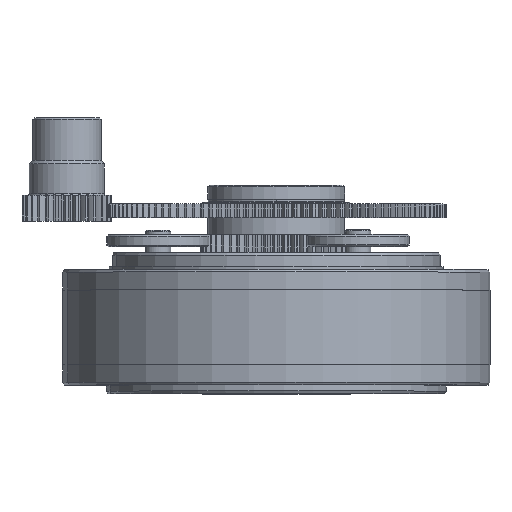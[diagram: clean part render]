
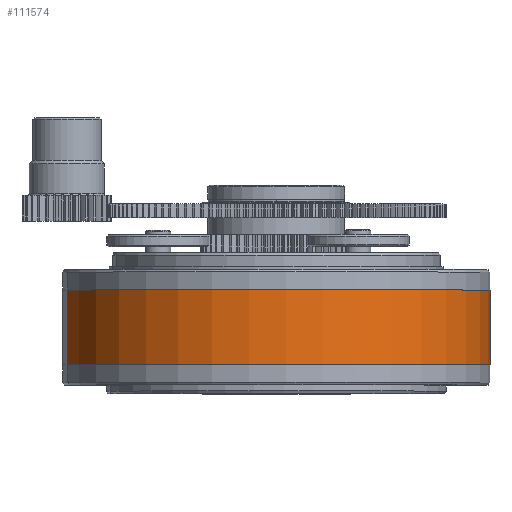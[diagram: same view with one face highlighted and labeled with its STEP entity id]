
A CAD part, top view. The second image highlights one B-rep face of the part: STEP entity #111574.
In plain terms, the highlighted cylindrical face has radius 125.25 mm (diameter 250.5 mm), a partial arc.
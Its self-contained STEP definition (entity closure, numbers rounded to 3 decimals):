
#4959 = DIRECTION ( 'NONE',  ( 0., 1., 0. ) ) ;
#6236 = LINE ( 'NONE', #113450, #30695 ) ;
#11114 = DIRECTION ( 'NONE',  ( 0., 1., 0. ) ) ;
#12780 = VERTEX_POINT ( 'NONE', #33763 ) ;
#16125 = LINE ( 'NONE', #76767, #83894 ) ;
#18107 = CARTESIAN_POINT ( 'NONE',  ( -125.25, 0., 0. ) ) ;
#19262 = CARTESIAN_POINT ( 'NONE',  ( -125.25, 43.6, 0. ) ) ;
#20896 = CIRCLE ( 'NONE', #78566, 125.25 ) ;
#30135 = ORIENTED_EDGE ( 'NONE', *, *, #47004, .T. ) ;
#30695 = VECTOR ( 'NONE', #4959, 1000. ) ;
#33763 = CARTESIAN_POINT ( 'NONE',  ( 125.25, 0., 0. ) ) ;
#35185 = EDGE_LOOP ( 'NONE', ( #92808, #40660, #30135, #47389 ) ) ;
#36399 = FACE_OUTER_BOUND ( 'NONE', #35185, .T. ) ;
#40660 = ORIENTED_EDGE ( 'NONE', *, *, #100627, .F. ) ;
#40831 = DIRECTION ( 'NONE',  ( 1., 0., 0. ) ) ;
#43675 = DIRECTION ( 'NONE',  ( 0., -1., 0. ) ) ;
#44520 = VERTEX_POINT ( 'NONE', #19262 ) ;
#47004 = EDGE_CURVE ( 'NONE', #12780, #118358, #6236, .T. ) ;
#47389 = ORIENTED_EDGE ( 'NONE', *, *, #58838, .F. ) ;
#48648 = AXIS2_PLACEMENT_3D ( 'NONE', #86946, #77241, #86312 ) ;
#58838 = EDGE_CURVE ( 'NONE', #44520, #118358, #110551, .T. ) ;
#59929 = EDGE_CURVE ( 'NONE', #95041, #44520, #16125, .T. ) ;
#75728 = CYLINDRICAL_SURFACE ( 'NONE', #89818, 125.25 ) ;
#76767 = CARTESIAN_POINT ( 'NONE',  ( -125.25, 0., 0. ) ) ;
#77241 = DIRECTION ( 'NONE',  ( 0., 1., 0. ) ) ;
#78566 = AXIS2_PLACEMENT_3D ( 'NONE', #94695, #43675, #113438 ) ;
#83894 = VECTOR ( 'NONE', #86485, 1000. ) ;
#86312 = DIRECTION ( 'NONE',  ( 1., 0., 0. ) ) ;
#86485 = DIRECTION ( 'NONE',  ( 0., 1., 0. ) ) ;
#86946 = CARTESIAN_POINT ( 'NONE',  ( 0., 43.6, 0. ) ) ;
#89818 = AXIS2_PLACEMENT_3D ( 'NONE', #125511, #11114, #40831 ) ;
#92808 = ORIENTED_EDGE ( 'NONE', *, *, #59929, .F. ) ;
#94695 = CARTESIAN_POINT ( 'NONE',  ( 0., 0., 0. ) ) ;
#95041 = VERTEX_POINT ( 'NONE', #18107 ) ;
#100627 = EDGE_CURVE ( 'NONE', #12780, #95041, #20896, .T. ) ;
#103965 = CARTESIAN_POINT ( 'NONE',  ( 125.25, 43.6, 0. ) ) ;
#110551 = CIRCLE ( 'NONE', #48648, 125.25 ) ;
#111574 = ADVANCED_FACE ( 'NONE', ( #36399 ), #75728, .T. ) ;
#113438 = DIRECTION ( 'NONE',  ( 1., 0., 0. ) ) ;
#113450 = CARTESIAN_POINT ( 'NONE',  ( 125.25, 0., 0. ) ) ;
#118358 = VERTEX_POINT ( 'NONE', #103965 ) ;
#125511 = CARTESIAN_POINT ( 'NONE',  ( 0., 0., 0. ) ) ;
